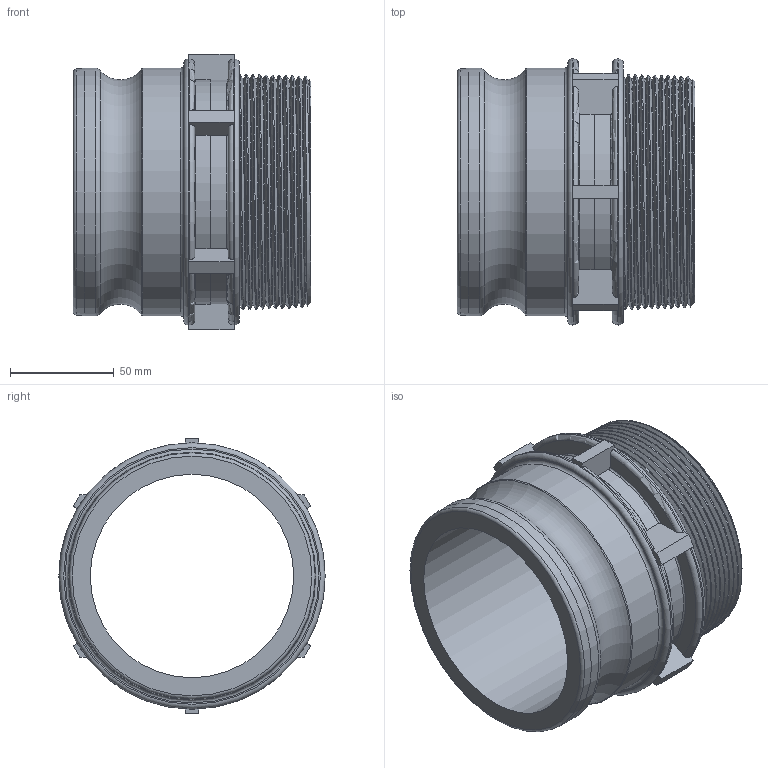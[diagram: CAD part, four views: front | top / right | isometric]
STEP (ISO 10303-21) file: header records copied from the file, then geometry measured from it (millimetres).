
FILE_DESCRIPTION(/* description */ ('Alibre Inc.'),/* implementation_level */ '2;1');
FILE_NAME(/* name */ 'export0',/* time_stamp */ '2016-01-17T17:08:08-05:00',/* author */ (''),/* organization */ (''),/* preprocessor_version */ 'ST-DEVELOPER v14',/* originating_system */ 'Alibre',/* authorisation */ '');
FILE_SCHEMA (('CONFIG_CONTROL_DESIGN'));
Length unit declared in the file: centimetre
Products named in the file (1): ID_1
Bounding box: 114.81 x 128.52 x 133.1 mm (x, y, z)
Volume: 327769.6 mm3; surface area: 102807.1 mm2
Topology: 1 solids, 1 shells, 130 faces, 371 edges, 245 vertices
Faces by surface type: plane 52, torus 30, cone 27, cylinder 17, bspline 4
Full cylindrical faces by diameter (mm): 98.298 x1, 119.583 x2, 128.524 x2
Entity records: 44890 total; most frequent: CARTESIAN_POINT 42012, ORIENTED_EDGE 708, DIRECTION 373, EDGE_CURVE 354, VERTEX_POINT 241, VECTOR 156, LINE 156, EDGE_LOOP 147
